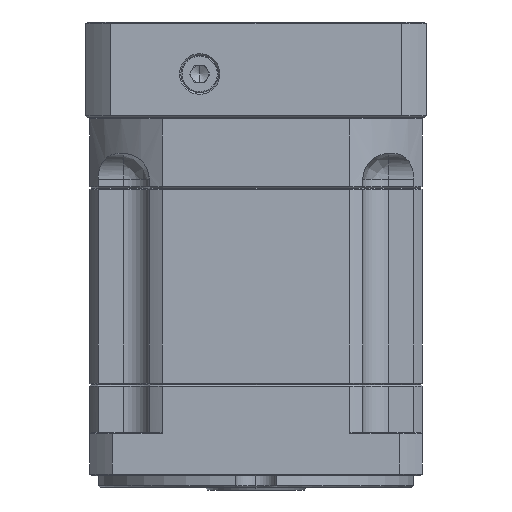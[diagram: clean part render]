
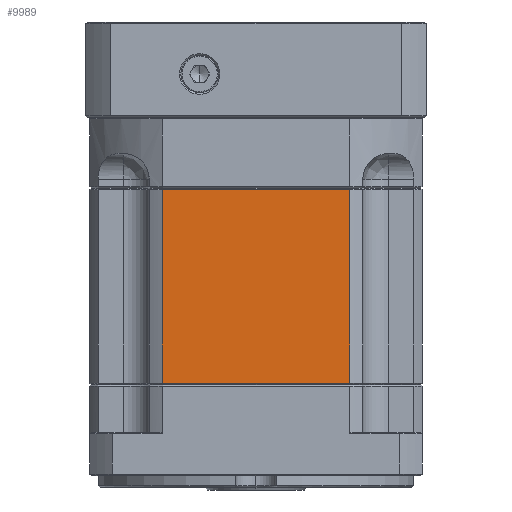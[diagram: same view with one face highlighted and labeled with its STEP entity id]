
A CAD part, left-side view. The second image highlights one B-rep face of the part: STEP entity #9989.
In plain terms, the highlighted planar face has unit normal (-1, 0, 0).
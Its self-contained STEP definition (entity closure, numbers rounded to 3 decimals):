
#4923 = VERTEX_POINT ( 'NONE', #35146 ) ;
#9989 = ADVANCED_FACE ( 'NONE', ( #52649 ), #34016, .F. ) ;
#12008 = ORIENTED_EDGE ( 'NONE', *, *, #111606, .F. ) ;
#12862 = CARTESIAN_POINT ( 'NONE',  ( -92.746, -58.916, 189.002 ) ) ;
#17072 = CARTESIAN_POINT ( 'NONE',  ( -92.746, -1.416, 188.502 ) ) ;
#19061 = CARTESIAN_POINT ( 'NONE',  ( -92.746, -33.816, -67.541 ) ) ;
#20474 = CARTESIAN_POINT ( 'NONE',  ( -92.746, -33.816, 188.502 ) ) ;
#22541 = DIRECTION ( 'NONE',  ( 1., 0., 0. ) ) ;
#28692 = VECTOR ( 'NONE', #127525, 1000. ) ;
#33031 = VERTEX_POINT ( 'NONE', #20474 ) ;
#34016 = PLANE ( 'NONE',  #73065 ) ;
#35146 = CARTESIAN_POINT ( 'NONE',  ( -92.746, -33.816, 121.502 ) ) ;
#38315 = VERTEX_POINT ( 'NONE', #83124 ) ;
#40556 = ORIENTED_EDGE ( 'NONE', *, *, #109318, .F. ) ;
#43755 = LINE ( 'NONE', #63042, #81481 ) ;
#50258 = ORIENTED_EDGE ( 'NONE', *, *, #96483, .F. ) ;
#52649 = FACE_OUTER_BOUND ( 'NONE', #63655, .T. ) ;
#58678 = DIRECTION ( 'NONE',  ( 0., 0., -1. ) ) ;
#63042 = CARTESIAN_POINT ( 'NONE',  ( -92.746, 30.984, 189.002 ) ) ;
#63460 = LINE ( 'NONE', #19061, #116992 ) ;
#63655 = EDGE_LOOP ( 'NONE', ( #122248, #12008, #50258, #40556 ) ) ;
#67519 = VERTEX_POINT ( 'NONE', #72148 ) ;
#72148 = CARTESIAN_POINT ( 'NONE',  ( -92.746, 30.984, 188.502 ) ) ;
#73065 = AXIS2_PLACEMENT_3D ( 'NONE', #12862, #22541, #104373 ) ;
#79995 = LINE ( 'NONE', #105359, #117780 ) ;
#80557 = EDGE_CURVE ( 'NONE', #4923, #38315, #79995, .T. ) ;
#81481 = VECTOR ( 'NONE', #82343, 1000. ) ;
#82343 = DIRECTION ( 'NONE',  ( 0., 0., 1. ) ) ;
#83124 = CARTESIAN_POINT ( 'NONE',  ( -92.746, 30.984, 121.502 ) ) ;
#88975 = DIRECTION ( 'NONE',  ( 0., 1., 0. ) ) ;
#96483 = EDGE_CURVE ( 'NONE', #67519, #33031, #116832, .T. ) ;
#104373 = DIRECTION ( 'NONE',  ( 0., 1., 0. ) ) ;
#105359 = CARTESIAN_POINT ( 'NONE',  ( -92.746, -58.916, 121.502 ) ) ;
#109318 = EDGE_CURVE ( 'NONE', #38315, #67519, #43755, .T. ) ;
#111606 = EDGE_CURVE ( 'NONE', #33031, #4923, #63460, .T. ) ;
#116832 = LINE ( 'NONE', #17072, #28692 ) ;
#116992 = VECTOR ( 'NONE', #58678, 1000. ) ;
#117780 = VECTOR ( 'NONE', #88975, 1000. ) ;
#122248 = ORIENTED_EDGE ( 'NONE', *, *, #80557, .F. ) ;
#127525 = DIRECTION ( 'NONE',  ( 0., -1., 0. ) ) ;
